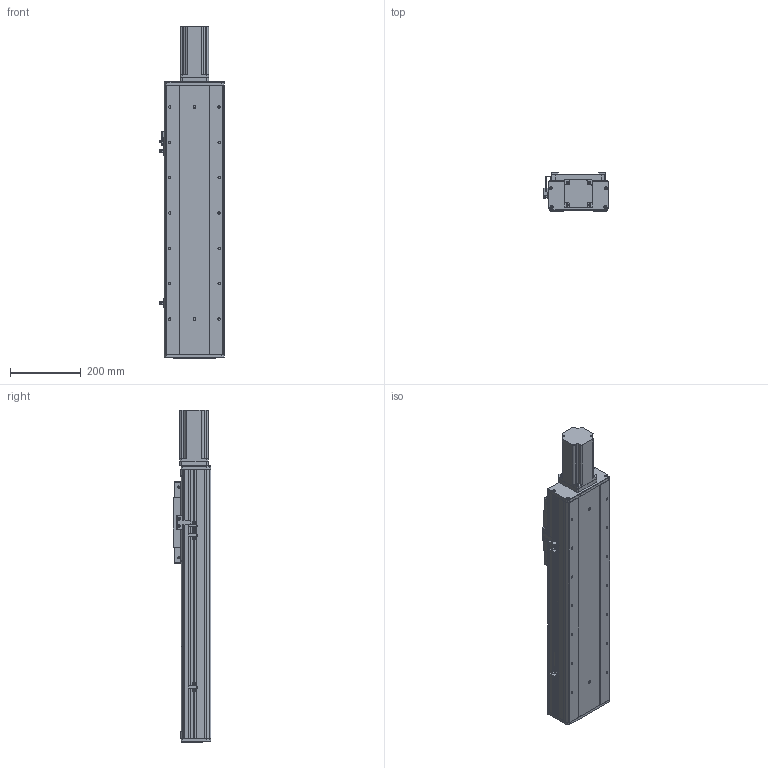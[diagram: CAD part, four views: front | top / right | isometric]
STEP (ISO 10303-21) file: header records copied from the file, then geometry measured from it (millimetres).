
FILE_DESCRIPTION (( 'STEP AP203' ), '1' );
FILE_NAME ('RY170F-L2020-300-MK.SLDASM_450.step', '2021-03-02T06:31:15', ( '盈信电脑' ), ( '东莞市道滘镇水果街19号' ), 'SwSTEP 2.0', 'SolidWorks 2012', '' );
FILE_SCHEMA (( 'CONFIG_CONTROL_DESIGN' ));
Length unit declared in the file: millimetre
Products named in the file (22): RY100F-詩湍揤踡謫; 滅袉蝶18-10; RY170F-直连前盖板(铝件）; RY170F-L2020-300-MK.SLDASM_450; 覜茼ん674; 侐源滅袉蝶; 怢湛750W萇儂ㄗ80遺ㄘ; 750W萇儂梓袧蛌諉啣; 滅袉蝶18-24; RY170F-揤踡謫假蚾粣; RY170F俋离覜茼え; RY170F-詩湍揤踡輸; 覜茼ん672; RY170F-后盖板(铝件）; 侂狟400W侜督萇儂; RY170F-佪裝臏賑輸20蹟譫; RY170F-丝杆铝滑块连接板; 15; RY170F-300眻蟀倰第菁釱-MK_450; RY170F-300眻蟀祥凄詩湍-MK_450; RY170F-滅鳥奻裔; RY170F-300眻蟀倰第奻裔啣-MK_450
Assembly tree (26 placements, depth 3):
  RY170F-L2020-300-MK.SLDASM_450
    RY170F-300眻蟀倰第菁釱-MK_450
    RY170F-300眻蟀祥凄詩湍-MK_450
    RY170F-300眻蟀倰第奻裔啣-MK_450  x2
    RY170F-滅鳥奻裔
    RY170F-佪裝臏賑輸20蹟譫
    RY170F-丝杆铝滑块连接板
    侂狟400W侜督萇儂
      15
    RY170F-直连前盖板(铝件）
    滅袉蝶18-10
    RY100F-詩湍揤踡謫
    RY170F-后盖板(铝件）
    覜茼ん672  x3
    RY170F俋离覜茼え
    RY170F-揤踡謫假蚾粣
    RY170F-詩湍揤踡輸  x2
    滅袉蝶18-24
    750W萇儂梓袧蛌諉啣
    怢湛750W萇儂ㄗ80遺ㄘ
    侐源滅袉蝶  x2
    覜茼ん674
Bounding box: 183.7 x 107 x 939 mm (x, y, z)
Volume: 5476032.8 mm3; surface area: 1607282.2 mm2
Topology: 25 solids, 25 shells, 2208 faces, 6087 edges, 3906 vertices
Faces by surface type: plane 1001, cylinder 973, cone 216, bspline 18
Entity records: 64743 total; most frequent: CARTESIAN_POINT 12809, DIRECTION 10597, ORIENTED_EDGE 10158, EDGE_CURVE 5079, AXIS2_PLACEMENT_3D 3760, VERTEX_POINT 3326, VECTOR 3077, LINE 3077
